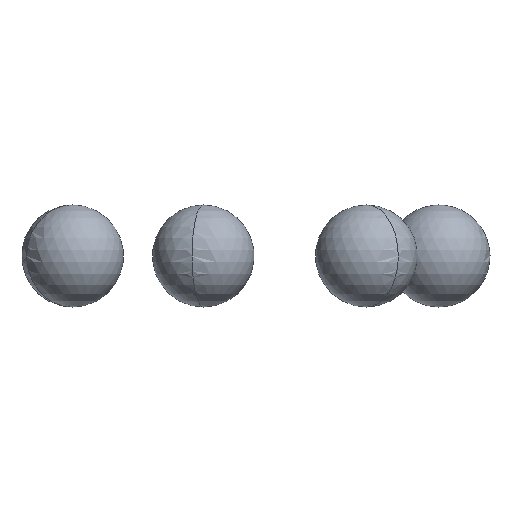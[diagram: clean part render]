
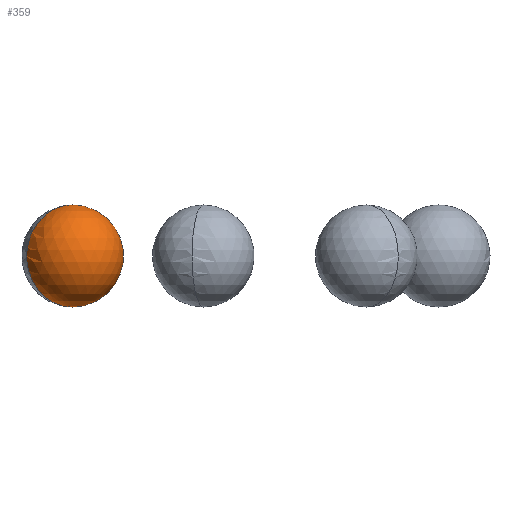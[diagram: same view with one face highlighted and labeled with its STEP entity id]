
A CAD part, front view. The second image highlights one B-rep face of the part: STEP entity #359.
In plain terms, the highlighted spherical face has radius 1.984 mm.
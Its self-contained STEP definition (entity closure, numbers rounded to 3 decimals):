
#17=CARTESIAN_POINT('',(-6.757,-3.254,31.516));
#18=CARTESIAN_POINT('',(-8.545,-4.115,33.5));
#19=CARTESIAN_POINT('',(-4.969,-2.393,33.5));
#20=CARTESIAN_POINT('',(-6.757,-3.254,35.485));
#93=CARTESIAN_POINT('',(-6.757,-3.254,31.516));
#94=CARTESIAN_POINT('',(-8.545,-4.115,31.516));
#95=CARTESIAN_POINT('',(-8.545,-4.115,33.5));
#96=(BOUNDED_CURVE()B_SPLINE_CURVE(2,(#93,#94,#95),.UNSPECIFIED.,.F.,.F.)B_SPLINE_CURVE_WITH_KNOTS((3,3),(0.,1.),.PIECEWISE_BEZIER_KNOTS.)CURVE()GEOMETRIC_REPRESENTATION_ITEM()RATIONAL_B_SPLINE_CURVE((1.0,0.707,1.0))REPRESENTATION_ITEM(''));
#97=CARTESIAN_POINT('',(-6.757,-3.254,31.516));
#98=CARTESIAN_POINT('',(-4.969,-2.393,31.516));
#99=CARTESIAN_POINT('',(-4.969,-2.393,33.5));
#100=(BOUNDED_CURVE()B_SPLINE_CURVE(2,(#97,#98,#99),.UNSPECIFIED.,.F.,.F.)B_SPLINE_CURVE_WITH_KNOTS((3,3),(0.,1.),.PIECEWISE_BEZIER_KNOTS.)CURVE()GEOMETRIC_REPRESENTATION_ITEM()RATIONAL_B_SPLINE_CURVE((1.0,0.707,1.0))REPRESENTATION_ITEM(''));
#101=CARTESIAN_POINT('',(-8.545,-4.115,33.5));
#102=CARTESIAN_POINT('',(-8.545,-4.115,35.485));
#103=CARTESIAN_POINT('',(-6.757,-3.254,35.485));
#104=(BOUNDED_CURVE()B_SPLINE_CURVE(2,(#101,#102,#103),.UNSPECIFIED.,.F.,.F.)B_SPLINE_CURVE_WITH_KNOTS((3,3),(0.,1.),.PIECEWISE_BEZIER_KNOTS.)CURVE()GEOMETRIC_REPRESENTATION_ITEM()RATIONAL_B_SPLINE_CURVE((1.0,0.707,1.0))REPRESENTATION_ITEM(''));
#105=CARTESIAN_POINT('',(-4.969,-2.393,33.5));
#106=CARTESIAN_POINT('',(-4.969,-2.393,35.485));
#107=CARTESIAN_POINT('',(-6.757,-3.254,35.485));
#108=(BOUNDED_CURVE()B_SPLINE_CURVE(2,(#105,#106,#107),.UNSPECIFIED.,.F.,.F.)B_SPLINE_CURVE_WITH_KNOTS((3,3),(0.,1.),.PIECEWISE_BEZIER_KNOTS.)CURVE()GEOMETRIC_REPRESENTATION_ITEM()RATIONAL_B_SPLINE_CURVE((1.0,0.707,1.0))REPRESENTATION_ITEM(''));
#181=CARTESIAN_POINT('',(-6.757,-3.254,33.5));
#182=DIRECTION('',(0.0,0.0,1.0));
#183=DIRECTION('',(1.0,0.0,0.0));
#184=AXIS2_PLACEMENT_3D('',#181,#182,#183);
#185=SPHERICAL_SURFACE('',#184,1.985);
#227=VERTEX_POINT('',#17);
#228=VERTEX_POINT('',#18);
#229=VERTEX_POINT('',#19);
#230=VERTEX_POINT('',#20);
#255=EDGE_CURVE('',#227,#228,#96,.T.);
#256=EDGE_CURVE('',#227,#229,#100,.T.);
#257=EDGE_CURVE('',#228,#230,#104,.T.);
#258=EDGE_CURVE('',#229,#230,#108,.T.);
#299=ORIENTED_EDGE('',*,*,#256,.T.);
#300=ORIENTED_EDGE('',*,*,#258,.T.);
#301=ORIENTED_EDGE('',*,*,#257,.F.);
#302=ORIENTED_EDGE('',*,*,#255,.F.);
#331=EDGE_LOOP('',(#299,#300,#301,#302));
#345=FACE_OUTER_BOUND('',#331,.T.);
#359=ADVANCED_FACE('',(#345),#185,.T.);
